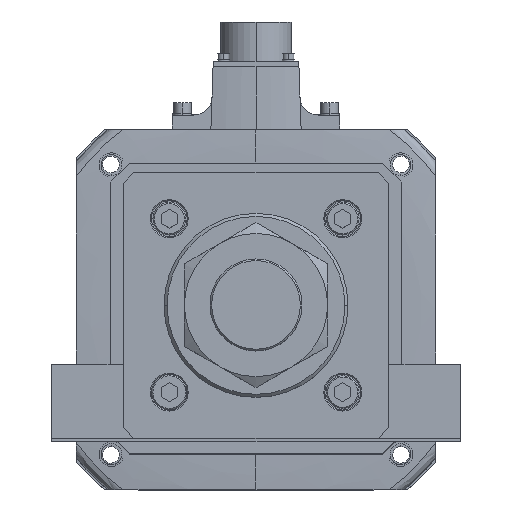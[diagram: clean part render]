
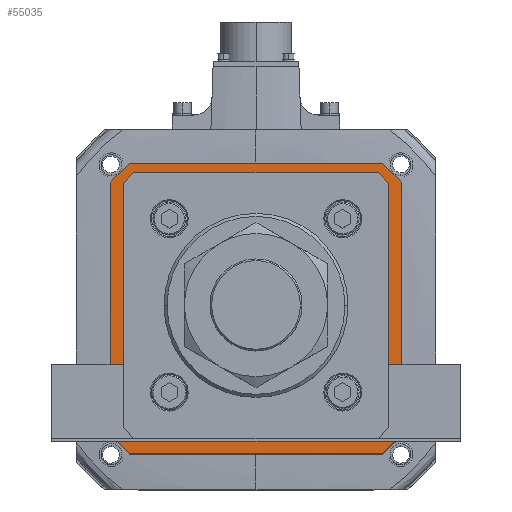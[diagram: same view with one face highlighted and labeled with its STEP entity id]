
A CAD part, top view. The second image highlights one B-rep face of the part: STEP entity #55035.
In plain terms, the highlighted planar face has unit normal (0, 0, 1).
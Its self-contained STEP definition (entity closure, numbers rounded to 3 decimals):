
#1127 = CARTESIAN_POINT ( 'NONE',  ( -62., 71., -142. ) ) ;
#2041 = CARTESIAN_POINT ( 'NONE',  ( -60.896, -60.896, -142. ) ) ;
#2556 = VERTEX_POINT ( 'NONE', #46510 ) ;
#3207 = VERTEX_POINT ( 'NONE', #25726 ) ;
#3480 = DIRECTION ( 'NONE',  ( 1., 0., 0. ) ) ;
#4078 = VECTOR ( 'NONE', #3480, 1000. ) ;
#4102 = DIRECTION ( 'NONE',  ( 0.707, 0.707, 0. ) ) ;
#4548 = CARTESIAN_POINT ( 'NONE',  ( 63., 0., -142. ) ) ;
#5288 = DIRECTION ( 'NONE',  ( 0., 1., 0. ) ) ;
#5301 = LINE ( 'NONE', #45846, #49427 ) ;
#5916 = EDGE_LOOP ( 'NONE', ( #34954, #53242, #41826, #36161, #42732, #40889, #48992, #28518 ) ) ;
#6172 = EDGE_CURVE ( 'NONE', #22420, #24772, #47035, .T. ) ;
#6683 = VERTEX_POINT ( 'NONE', #50248 ) ;
#7902 = VECTOR ( 'NONE', #9353, 1000. ) ;
#8052 = LINE ( 'NONE', #12393, #4078 ) ;
#8107 = VECTOR ( 'NONE', #23839, 1000. ) ;
#8354 = CARTESIAN_POINT ( 'NONE',  ( -60.896, 60.896, -142. ) ) ;
#9353 = DIRECTION ( 'NONE',  ( -0.707, -0.707, 0. ) ) ;
#10215 = CARTESIAN_POINT ( 'NONE',  ( -58.793, 63., -142. ) ) ;
#11502 = EDGE_CURVE ( 'NONE', #21144, #3207, #33241, .T. ) ;
#11763 = CARTESIAN_POINT ( 'NONE',  ( 63., 58.793, -142. ) ) ;
#12041 = ORIENTED_EDGE ( 'NONE', *, *, #33839, .F. ) ;
#12195 = VECTOR ( 'NONE', #46725, 1000. ) ;
#12265 = VERTEX_POINT ( 'NONE', #22631 ) ;
#12393 = CARTESIAN_POINT ( 'NONE',  ( 0., 63., -142. ) ) ;
#12426 = LINE ( 'NONE', #8354, #46504 ) ;
#13126 = CARTESIAN_POINT ( 'NONE',  ( 71., 62., -142. ) ) ;
#13465 = CARTESIAN_POINT ( 'NONE',  ( 0., -63., -142. ) ) ;
#13909 = CARTESIAN_POINT ( 'NONE',  ( -62., -71., -142. ) ) ;
#14227 = CARTESIAN_POINT ( 'NONE',  ( -63., -58.793, -142. ) ) ;
#14423 = VERTEX_POINT ( 'NONE', #13126 ) ;
#14889 = LINE ( 'NONE', #13465, #20885 ) ;
#16579 = VERTEX_POINT ( 'NONE', #31546 ) ;
#17307 = CARTESIAN_POINT ( 'NONE',  ( 71., -62., -142. ) ) ;
#17727 = EDGE_CURVE ( 'NONE', #25597, #16579, #47973, .T. ) ;
#18128 = CARTESIAN_POINT ( 'NONE',  ( 60.896, -60.896, -142. ) ) ;
#18179 = VERTEX_POINT ( 'NONE', #10215 ) ;
#18836 = LINE ( 'NONE', #45256, #45575 ) ;
#19070 = AXIS2_PLACEMENT_3D ( 'NONE', #25007, #24829, #20183 ) ;
#19094 = EDGE_CURVE ( 'NONE', #6683, #18179, #12426, .T. ) ;
#19931 = VERTEX_POINT ( 'NONE', #46161 ) ;
#20183 = DIRECTION ( 'NONE',  ( 1., 0., 0. ) ) ;
#20885 = VECTOR ( 'NONE', #22042, 1000. ) ;
#21144 = VERTEX_POINT ( 'NONE', #13909 ) ;
#21575 = LINE ( 'NONE', #4548, #12195 ) ;
#22042 = DIRECTION ( 'NONE',  ( -1., 0., 0. ) ) ;
#22148 = VECTOR ( 'NONE', #53029, 1000. ) ;
#22224 = VECTOR ( 'NONE', #44217, 1000. ) ;
#22420 = VERTEX_POINT ( 'NONE', #22899 ) ;
#22631 = CARTESIAN_POINT ( 'NONE',  ( 62., 71., -142. ) ) ;
#22862 = LINE ( 'NONE', #48350, #22224 ) ;
#22899 = CARTESIAN_POINT ( 'NONE',  ( -71., 62., -142. ) ) ;
#23040 = VERTEX_POINT ( 'NONE', #51836 ) ;
#23839 = DIRECTION ( 'NONE',  ( -0.707, 0.707, 0. ) ) ;
#24336 = VECTOR ( 'NONE', #43247, 1000. ) ;
#24362 = DIRECTION ( 'NONE',  ( 0., 1., 0. ) ) ;
#24772 = VERTEX_POINT ( 'NONE', #1127 ) ;
#24829 = DIRECTION ( 'NONE',  ( 0., 0., 1. ) ) ;
#25007 = CARTESIAN_POINT ( 'NONE',  ( 0., 0., -142. ) ) ;
#25597 = VERTEX_POINT ( 'NONE', #28594 ) ;
#25726 = CARTESIAN_POINT ( 'NONE',  ( -71., -62., -142. ) ) ;
#25832 = DIRECTION ( 'NONE',  ( 0., -1., 0. ) ) ;
#26356 = VECTOR ( 'NONE', #53276, 1000. ) ;
#27608 = EDGE_CURVE ( 'NONE', #3207, #22420, #18836, .T. ) ;
#28350 = EDGE_CURVE ( 'NONE', #23040, #19931, #44143, .T. ) ;
#28518 = ORIENTED_EDGE ( 'NONE', *, *, #34638, .T. ) ;
#28594 = CARTESIAN_POINT ( 'NONE',  ( 63., -58.793, -142. ) ) ;
#28653 = EDGE_CURVE ( 'NONE', #18179, #2556, #8052, .T. ) ;
#29058 = LINE ( 'NONE', #45210, #26356 ) ;
#29222 = DIRECTION ( 'NONE',  ( -0.707, 0.707, 0. ) ) ;
#29617 = VERTEX_POINT ( 'NONE', #45320 ) ;
#29672 = ORIENTED_EDGE ( 'NONE', *, *, #6172, .F. ) ;
#30312 = LINE ( 'NONE', #46756, #36999 ) ;
#30401 = CARTESIAN_POINT ( 'NONE',  ( -62., 71., -142. ) ) ;
#31546 = CARTESIAN_POINT ( 'NONE',  ( 58.793, -63., -142. ) ) ;
#32262 = CARTESIAN_POINT ( 'NONE',  ( 71., 62., -142. ) ) ;
#32876 = LINE ( 'NONE', #32262, #22148 ) ;
#33241 = LINE ( 'NONE', #46220, #44568 ) ;
#33371 = DIRECTION ( 'NONE',  ( -0.707, -0.707, 0. ) ) ;
#33839 = EDGE_CURVE ( 'NONE', #14423, #23040, #30312, .T. ) ;
#33919 = EDGE_CURVE ( 'NONE', #38638, #6683, #42984, .T. ) ;
#34638 = EDGE_CURVE ( 'NONE', #2556, #41334, #22862, .T. ) ;
#34805 = CARTESIAN_POINT ( 'NONE',  ( -63., 0., -142. ) ) ;
#34815 = ORIENTED_EDGE ( 'NONE', *, *, #44673, .F. ) ;
#34861 = LINE ( 'NONE', #2041, #8107 ) ;
#34954 = ORIENTED_EDGE ( 'NONE', *, *, #47142, .T. ) ;
#35123 = EDGE_CURVE ( 'NONE', #29617, #38638, #34861, .T. ) ;
#35166 = ORIENTED_EDGE ( 'NONE', *, *, #27608, .F. ) ;
#36161 = ORIENTED_EDGE ( 'NONE', *, *, #35123, .T. ) ;
#36999 = VECTOR ( 'NONE', #25832, 1000. ) ;
#37445 = FACE_BOUND ( 'NONE', #5916, .T. ) ;
#38638 = VERTEX_POINT ( 'NONE', #14227 ) ;
#38830 = VECTOR ( 'NONE', #33371, 1000. ) ;
#40889 = ORIENTED_EDGE ( 'NONE', *, *, #19094, .T. ) ;
#41334 = VERTEX_POINT ( 'NONE', #11763 ) ;
#41756 = EDGE_CURVE ( 'NONE', #19931, #21144, #5301, .T. ) ;
#41826 = ORIENTED_EDGE ( 'NONE', *, *, #53138, .T. ) ;
#42732 = ORIENTED_EDGE ( 'NONE', *, *, #33919, .T. ) ;
#42984 = LINE ( 'NONE', #34805, #47025 ) ;
#43247 = DIRECTION ( 'NONE',  ( 0.707, 0.707, 0. ) ) ;
#43759 = ORIENTED_EDGE ( 'NONE', *, *, #41756, .F. ) ;
#44143 = LINE ( 'NONE', #17307, #38830 ) ;
#44217 = DIRECTION ( 'NONE',  ( 0.707, -0.707, 0. ) ) ;
#44568 = VECTOR ( 'NONE', #29222, 1000. ) ;
#44673 = EDGE_CURVE ( 'NONE', #24772, #12265, #29058, .T. ) ;
#45210 = CARTESIAN_POINT ( 'NONE',  ( 62., 71., -142. ) ) ;
#45256 = CARTESIAN_POINT ( 'NONE',  ( -71., 62., -142. ) ) ;
#45320 = CARTESIAN_POINT ( 'NONE',  ( -58.793, -63., -142. ) ) ;
#45575 = VECTOR ( 'NONE', #24362, 1000. ) ;
#45846 = CARTESIAN_POINT ( 'NONE',  ( 62., -71., -142. ) ) ;
#46161 = CARTESIAN_POINT ( 'NONE',  ( 62., -71., -142. ) ) ;
#46220 = CARTESIAN_POINT ( 'NONE',  ( -62., -71., -142. ) ) ;
#46504 = VECTOR ( 'NONE', #4102, 1000. ) ;
#46510 = CARTESIAN_POINT ( 'NONE',  ( 58.793, 63., -142. ) ) ;
#46725 = DIRECTION ( 'NONE',  ( 0., -1., 0. ) ) ;
#46756 = CARTESIAN_POINT ( 'NONE',  ( 71., 62., -142. ) ) ;
#47025 = VECTOR ( 'NONE', #5288, 1000. ) ;
#47035 = LINE ( 'NONE', #30401, #24336 ) ;
#47142 = EDGE_CURVE ( 'NONE', #41334, #25597, #21575, .T. ) ;
#47866 = EDGE_CURVE ( 'NONE', #12265, #14423, #32876, .T. ) ;
#47973 = LINE ( 'NONE', #18128, #7902 ) ;
#48350 = CARTESIAN_POINT ( 'NONE',  ( 60.896, 60.896, -142. ) ) ;
#48992 = ORIENTED_EDGE ( 'NONE', *, *, #28653, .T. ) ;
#49427 = VECTOR ( 'NONE', #54643, 1000. ) ;
#49464 = FACE_OUTER_BOUND ( 'NONE', #50260, .T. ) ;
#50248 = CARTESIAN_POINT ( 'NONE',  ( -63., 58.793, -142. ) ) ;
#50260 = EDGE_LOOP ( 'NONE', ( #34815, #29672, #35166, #54638, #43759, #53606, #12041, #50798 ) ) ;
#50615 = PLANE ( 'NONE',  #19070 ) ;
#50798 = ORIENTED_EDGE ( 'NONE', *, *, #47866, .F. ) ;
#51836 = CARTESIAN_POINT ( 'NONE',  ( 71., -62., -142. ) ) ;
#53029 = DIRECTION ( 'NONE',  ( 0.707, -0.707, 0. ) ) ;
#53138 = EDGE_CURVE ( 'NONE', #16579, #29617, #14889, .T. ) ;
#53242 = ORIENTED_EDGE ( 'NONE', *, *, #17727, .T. ) ;
#53276 = DIRECTION ( 'NONE',  ( 1., 0., 0. ) ) ;
#53606 = ORIENTED_EDGE ( 'NONE', *, *, #28350, .F. ) ;
#54638 = ORIENTED_EDGE ( 'NONE', *, *, #11502, .F. ) ;
#54643 = DIRECTION ( 'NONE',  ( -1., 0., 0. ) ) ;
#55035 = ADVANCED_FACE ( 'NONE', ( #37445, #49464 ), #50615, .T. ) ;
